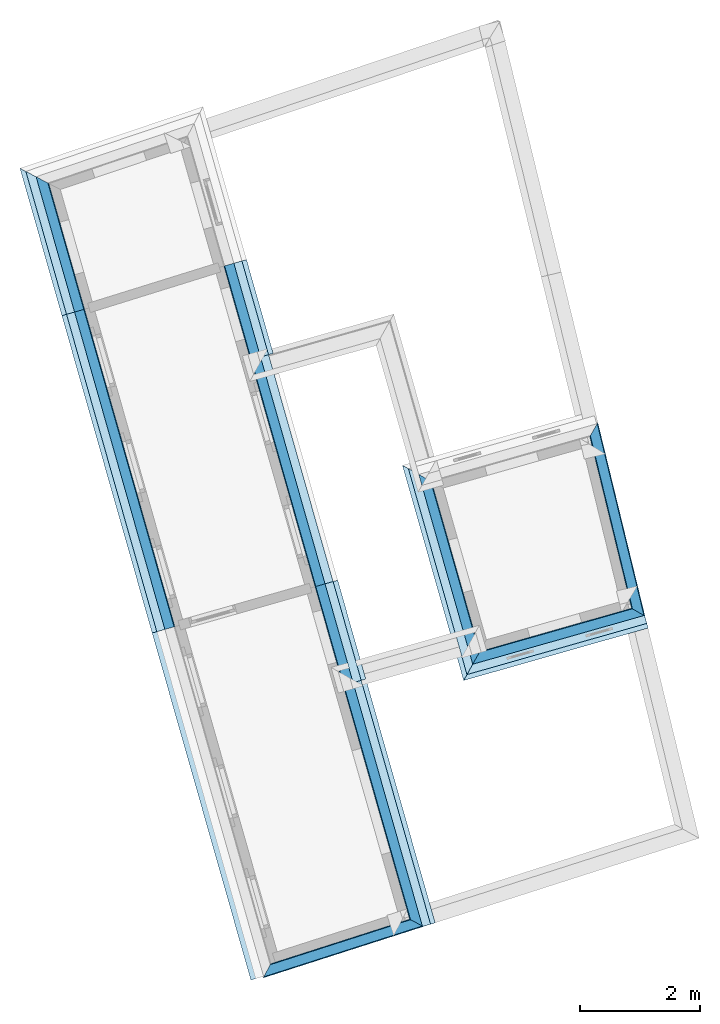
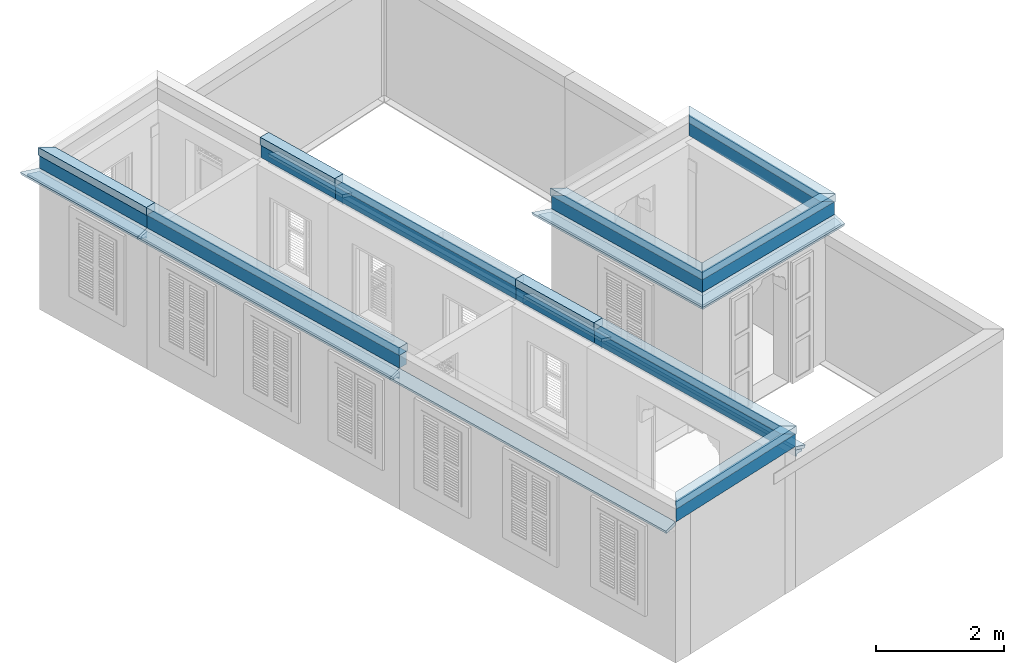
# One storey, part 12 of 13: 36 roofs.
"""IFC4 building model written with IfcOpenShell, lengths in metres."""

from ifc_helpers import new_model, si_unit, frame, origin_with_axes, place, context, subcontext, project, spatial, polyline, outline, extrude, clip, halfspace, material_profile, profile_set, profile_usage, type_object, element, save


model = new_model("IFC4")

# Units and contexts
model_context = context("Model", 3, world=origin_with_axes())
body_context = subcontext(model_context, "Body", "Model", "MODEL_VIEW")
ifc_project = project(units=[si_unit("PLANEANGLEUNIT", "RADIAN"), si_unit("MASSUNIT", "GRAM", prefix="KILO"), si_unit("FORCEUNIT", "NEWTON", prefix="KILO"), si_unit("LENGTHUNIT", "METRE"), si_unit("AREAUNIT", "SQUARE_METRE"), si_unit("VOLUMEUNIT", "CUBIC_METRE")], contexts=[model_context, model_context])

# Site, building, storey
site_placement = place(None, origin_with_axes())
site = spatial("IfcSite", under=ifc_project, at=site_placement, Name="Site plot-3", CompositionType="ELEMENT")
building_placement = place(None, origin_with_axes())
building = spatial("IfcBuilding", under=site, at=building_placement, Name="Building plot-3", CompositionType="ELEMENT")
storey_placement = place(None, frame((0.0, 0.0, 3.3), z_axis=(0.0, 0.0, 1.0), x_axis=(1.0, 0.0, 0.0)))
storey = spatial("IfcBuildingStorey", under=building, at=storey_placement, Name="plot-3 1", CompositionType="ELEMENT", Elevation=3.3)

# Roofs
ifc_material_profile_1 = material_profile(None, outline(polyline([(0.25, 0.0), (0.25, 0.245), (0.09, 0.245), (0.09, 0.0), (0.25, 0.0)])))
ifc_profile_set_1 = profile_set([ifc_material_profile_1])
ifc_profile_usage_1 = profile_usage(ifc_profile_set_1)
roof_type_1 = type_object("IfcRoofType", Name="roofline_0", PredefinedType="FREEFORM", material=ifc_profile_set_1)
roof_1_placement = place(storey_placement, frame((7.71388206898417, 25.0570450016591, 2.7), z_axis=(-0.273606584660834, 0.961841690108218, 0.0), x_axis=(-0.961841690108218, -0.273606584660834, 0.0)))
element("IfcRoof", 1, at=roof_1_placement, inside=storey, type_object=roof_type_1, material=ifc_profile_usage_1, Name="roofline_0", context=body_context, shape_type="Clipping", body=[
    clip(clip(extrude(outline(polyline([(0.25, 0.0), (0.25, 0.245), (0.09, 0.245), (0.09, 0.0), (0.25, 0.0)])), origin_with_axes(), (0.0, 0.0, 1.0), 4.10672390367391), halfspace(frame((0.0, 0.0, 3.10672390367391), z_axis=(0.689925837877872, 0.0, -0.723880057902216), x_axis=(0.0, 1.0, 0.0)), True)), halfspace(frame((0.0, 0.0, 1.0), z_axis=(-2.05963378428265e-15, 0.0, -1.0), x_axis=(0.0, 1.0, 0.0)), False)),
])
ifc_profile_usage_2 = profile_usage(ifc_profile_set_1)
roof_2_placement = place(storey_placement, frame((9.21950237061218, 19.7641593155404, 2.7), z_axis=(-0.27360658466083, 0.961841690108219, 0.0), x_axis=(-0.961841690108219, -0.27360658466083, 0.0)))
element("IfcRoof", 2, at=roof_2_placement, inside=storey, type_object=roof_type_1, material=ifc_profile_usage_2, Name="roofline_0", context=body_context, shape_type="Clipping", body=[
    clip(clip(extrude(outline(polyline([(0.25, 0.0), (0.25, 0.245), (0.09, 0.245), (0.09, 0.0), (0.25, 0.0)])), origin_with_axes(), (0.0, 0.0, 1.0), 7.50286574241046), halfspace(frame((0.0, 0.0, 6.50286574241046), z_axis=(-6.50052588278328e-15, 0.0, -1.0), x_axis=(0.0, 1.0, 0.0)), True)), halfspace(frame((0.0, 0.0, 1.0), z_axis=(6.04901474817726e-16, 0.0, -1.0), x_axis=(0.0, 1.0, 0.0)), False)),
])
ifc_profile_usage_3 = profile_usage(ifc_profile_set_1)
roof_3_placement = place(storey_placement, frame((13.6449707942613, 16.1811149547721, 2.7), z_axis=(-0.952226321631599, -0.305393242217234, 0.0), x_axis=(0.305393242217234, -0.952226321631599, 0.0)))
element("IfcRoof", 3, at=roof_3_placement, inside=storey, type_object=roof_type_1, material=ifc_profile_usage_3, Name="roofline_0", context=body_context, shape_type="Clipping", body=[
    clip(clip(extrude(outline(polyline([(0.25, 0.0), (0.25, 0.245), (0.09, 0.245), (0.09, 0.0), (0.25, 0.0)])), origin_with_axes(), (0.0, 0.0, 1.0), 4.27806309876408), halfspace(frame((0.0, 0.0, 3.27806309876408), z_axis=(0.718750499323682, 0.0, -0.695268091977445), x_axis=(0.0, 1.0, 0.0)), True)), halfspace(frame((0.0, 0.0, 1.0), z_axis=(-0.695268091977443, 0.0, -0.718750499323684), x_axis=(0.0, 1.0, 0.0)), False)),
])
ifc_profile_usage_4 = profile_usage(ifc_profile_set_1)
roof_4_placement = place(storey_placement, frame((11.3309174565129, 20.663113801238, 2.7), z_axis=(0.273606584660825, -0.961841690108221, 0.0), x_axis=(0.961841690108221, 0.273606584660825, 0.0)))
element("IfcRoof", 4, at=roof_4_placement, inside=storey, type_object=roof_type_1, material=ifc_profile_usage_4, Name="roofline_0", context=body_context, shape_type="Clipping", body=[
    clip(clip(extrude(outline(polyline([(0.25, 0.0), (0.25, 0.245), (0.09, 0.245), (0.09, 0.0), (0.25, 0.0)])), origin_with_axes(), (0.0, 0.0, 1.0), 5.97731813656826), halfspace(frame((0.0, 0.0, 4.97731813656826), z_axis=(0.695268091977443, 0.0, -0.718750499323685), x_axis=(0.0, 1.0, 0.0)), True)), halfspace(frame((0.0, 0.0, 1.0), z_axis=(-6.12323399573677e-17, 0.0, -1.0), x_axis=(0.0, 1.0, 0.0)), False)),
])
ifc_profile_usage_5 = profile_usage(ifc_profile_set_1)
roof_5_placement = place(storey_placement, frame((10.8622170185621, 22.3107920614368, 2.7), z_axis=(0.273606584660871, -0.961841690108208, 0.0), x_axis=(0.961841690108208, 0.273606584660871, 0.0)))
element("IfcRoof", 5, at=roof_5_placement, inside=storey, type_object=roof_type_1, material=ifc_profile_usage_5, Name="roofline_0", context=body_context, shape_type="Clipping", body=[
    clip(clip(extrude(outline(polyline([(0.25, 0.0), (0.25, 0.245), (0.09, 0.245), (0.09, 0.0), (0.25, 0.0)])), origin_with_axes(), (0.0, 0.0, 1.0), 3.71304516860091), halfspace(frame((0.0, 0.0, 2.71304516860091), z_axis=(4.70122239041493e-14, 0.0, -1.0), x_axis=(0.0, 1.0, 0.0)), True)), halfspace(frame((0.0, 0.0, 1.0), z_axis=(-9.49410759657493e-16, 0.0, -1.0), x_axis=(0.0, 1.0, 0.0)), False)),
])
ifc_profile_usage_6 = profile_usage(ifc_profile_set_1)
roof_6_placement = place(storey_placement, frame((9.78591277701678, 26.0944520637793, 2.7), z_axis=(0.273606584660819, -0.961841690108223, 0.0), x_axis=(0.961841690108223, 0.273606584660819, 0.0)))
element("IfcRoof", 6, at=roof_6_placement, inside=storey, type_object=roof_type_1, material=ifc_profile_usage_6, Name="roofline_0", context=body_context, shape_type="Clipping", body=[
    clip(clip(extrude(outline(polyline([(0.25, 0.0), (0.25, 0.245), (0.09, 0.245), (0.09, 0.0), (0.25, 0.0)])), origin_with_axes(), (0.0, 0.0, 1.0), 5.93376585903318), halfspace(frame((0.0, 0.0, 4.93376585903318), z_axis=(-5.51282943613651e-14, 0.0, -1.0), x_axis=(0.0, 1.0, 0.0)), True)), halfspace(frame((0.0, 0.0, 1.0), z_axis=(1.60812264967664e-16, 0.0, -1.0), x_axis=(0.0, 1.0, 0.0)), False)),
])
ifc_profile_usage_7 = profile_usage(ifc_profile_set_1)
roof_7_placement = place(storey_placement, frame((9.34125615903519, 27.6576062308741, 2.7), z_axis=(0.273606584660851, -0.961841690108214, 0.0), x_axis=(0.961841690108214, 0.273606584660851, 0.0)))
element("IfcRoof", 7, at=roof_7_placement, inside=storey, type_object=roof_type_1, material=ifc_profile_usage_7, Name="roofline_0", context=body_context, shape_type="Clipping", body=[
    clip(clip(extrude(outline(polyline([(0.25, 0.0), (0.25, 0.245), (0.09, 0.245), (0.09, 0.0), (0.25, 0.0)])), origin_with_axes(), (0.0, 0.0, 1.0), 3.62516782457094), halfspace(frame((0.0, 0.0, 2.62516782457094), z_axis=(3.36895476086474e-14, 0.0, -1.0), x_axis=(0.0, 1.0, 0.0)), True)), halfspace(frame((0.0, 0.0, 1.0), z_axis=(3.82856869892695e-16, 0.0, -1.0), x_axis=(0.0, 1.0, 0.0)), False)),
])
ifc_material_profile_2 = material_profile(None, outline(polyline([(0.265, 0.245), (0.265, 0.395), (0.075, 0.395), (0.075, 0.245), (0.265, 0.245)])))
ifc_profile_set_2 = profile_set([ifc_material_profile_2])
ifc_profile_usage_8 = profile_usage(ifc_profile_set_2)
roof_type_2 = type_object("IfcRoofType", Name="roofline_1", PredefinedType="FREEFORM", material=ifc_profile_set_2)
roof_8_placement = place(storey_placement, frame((7.71388206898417, 25.0570450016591, 2.7), z_axis=(-0.273606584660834, 0.961841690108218, 0.0), x_axis=(-0.961841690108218, -0.273606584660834, 0.0)))
element("IfcRoof", 8, at=roof_8_placement, inside=storey, type_object=roof_type_2, material=ifc_profile_usage_8, Name="roofline_1", context=body_context, shape_type="Clipping", body=[
    clip(clip(extrude(outline(polyline([(0.265, 0.245), (0.265, 0.395), (0.075, 0.395), (0.075, 0.245), (0.265, 0.245)])), origin_with_axes(), (0.0, 0.0, 1.0), 4.10672390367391), halfspace(frame((0.0, 0.0, 3.10672390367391), z_axis=(0.689925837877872, 0.0, -0.723880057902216), x_axis=(0.0, 1.0, 0.0)), True)), halfspace(frame((0.0, 0.0, 1.0), z_axis=(-2.05963378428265e-15, 0.0, -1.0), x_axis=(0.0, 1.0, 0.0)), False)),
])
ifc_profile_usage_9 = profile_usage(ifc_profile_set_2)
roof_9_placement = place(storey_placement, frame((9.21950237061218, 19.7641593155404, 2.7), z_axis=(-0.27360658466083, 0.961841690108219, 0.0), x_axis=(-0.961841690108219, -0.27360658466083, 0.0)))
element("IfcRoof", 9, at=roof_9_placement, inside=storey, type_object=roof_type_2, material=ifc_profile_usage_9, Name="roofline_1", context=body_context, shape_type="Clipping", body=[
    clip(clip(extrude(outline(polyline([(0.265, 0.245), (0.265, 0.395), (0.075, 0.395), (0.075, 0.245), (0.265, 0.245)])), origin_with_axes(), (0.0, 0.0, 1.0), 7.50286574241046), halfspace(frame((0.0, 0.0, 6.50286574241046), z_axis=(-6.50052588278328e-15, 0.0, -1.0), x_axis=(0.0, 1.0, 0.0)), True)), halfspace(frame((0.0, 0.0, 1.0), z_axis=(6.04901474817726e-16, 0.0, -1.0), x_axis=(0.0, 1.0, 0.0)), False)),
])
ifc_profile_usage_10 = profile_usage(ifc_profile_set_2)
roof_10_placement = place(storey_placement, frame((13.6449707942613, 16.1811149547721, 2.7), z_axis=(-0.952226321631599, -0.305393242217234, 0.0), x_axis=(0.305393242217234, -0.952226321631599, 0.0)))
element("IfcRoof", 10, at=roof_10_placement, inside=storey, type_object=roof_type_2, material=ifc_profile_usage_10, Name="roofline_1", context=body_context, shape_type="Clipping", body=[
    clip(clip(extrude(outline(polyline([(0.265, 0.245), (0.265, 0.395), (0.075, 0.395), (0.075, 0.245), (0.265, 0.245)])), origin_with_axes(), (0.0, 0.0, 1.0), 4.27806309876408), halfspace(frame((0.0, 0.0, 3.27806309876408), z_axis=(0.718750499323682, 0.0, -0.695268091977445), x_axis=(0.0, 1.0, 0.0)), True)), halfspace(frame((0.0, 0.0, 1.0), z_axis=(-0.695268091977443, 0.0, -0.718750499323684), x_axis=(0.0, 1.0, 0.0)), False)),
])
ifc_profile_usage_11 = profile_usage(ifc_profile_set_2)
roof_11_placement = place(storey_placement, frame((11.3309174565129, 20.663113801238, 2.7), z_axis=(0.273606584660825, -0.961841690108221, 0.0), x_axis=(0.961841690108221, 0.273606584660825, 0.0)))
element("IfcRoof", 11, at=roof_11_placement, inside=storey, type_object=roof_type_2, material=ifc_profile_usage_11, Name="roofline_1", context=body_context, shape_type="Clipping", body=[
    clip(clip(extrude(outline(polyline([(0.265, 0.245), (0.265, 0.395), (0.075, 0.395), (0.075, 0.245), (0.265, 0.245)])), origin_with_axes(), (0.0, 0.0, 1.0), 5.97731813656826), halfspace(frame((0.0, 0.0, 4.97731813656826), z_axis=(0.695268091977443, 0.0, -0.718750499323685), x_axis=(0.0, 1.0, 0.0)), True)), halfspace(frame((0.0, 0.0, 1.0), z_axis=(-6.12323399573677e-17, 0.0, -1.0), x_axis=(0.0, 1.0, 0.0)), False)),
])
ifc_profile_usage_12 = profile_usage(ifc_profile_set_2)
roof_12_placement = place(storey_placement, frame((10.8622170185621, 22.3107920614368, 2.7), z_axis=(0.273606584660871, -0.961841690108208, 0.0), x_axis=(0.961841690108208, 0.273606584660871, 0.0)))
element("IfcRoof", 12, at=roof_12_placement, inside=storey, type_object=roof_type_2, material=ifc_profile_usage_12, Name="roofline_1", context=body_context, shape_type="Clipping", body=[
    clip(clip(extrude(outline(polyline([(0.265, 0.245), (0.265, 0.395), (0.075, 0.395), (0.075, 0.245), (0.265, 0.245)])), origin_with_axes(), (0.0, 0.0, 1.0), 3.71304516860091), halfspace(frame((0.0, 0.0, 2.71304516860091), z_axis=(4.70122239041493e-14, 0.0, -1.0), x_axis=(0.0, 1.0, 0.0)), True)), halfspace(frame((0.0, 0.0, 1.0), z_axis=(-9.49410759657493e-16, 0.0, -1.0), x_axis=(0.0, 1.0, 0.0)), False)),
])
ifc_profile_usage_13 = profile_usage(ifc_profile_set_2)
roof_13_placement = place(storey_placement, frame((9.78591277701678, 26.0944520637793, 2.7), z_axis=(0.273606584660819, -0.961841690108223, 0.0), x_axis=(0.961841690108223, 0.273606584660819, 0.0)))
element("IfcRoof", 13, at=roof_13_placement, inside=storey, type_object=roof_type_2, material=ifc_profile_usage_13, Name="roofline_1", context=body_context, shape_type="Clipping", body=[
    clip(clip(extrude(outline(polyline([(0.265, 0.245), (0.265, 0.395), (0.075, 0.395), (0.075, 0.245), (0.265, 0.245)])), origin_with_axes(), (0.0, 0.0, 1.0), 5.93376585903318), halfspace(frame((0.0, 0.0, 4.93376585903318), z_axis=(-5.51282943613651e-14, 0.0, -1.0), x_axis=(0.0, 1.0, 0.0)), True)), halfspace(frame((0.0, 0.0, 1.0), z_axis=(1.60812264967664e-16, 0.0, -1.0), x_axis=(0.0, 1.0, 0.0)), False)),
])
ifc_profile_usage_14 = profile_usage(ifc_profile_set_2)
roof_14_placement = place(storey_placement, frame((9.34125615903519, 27.6576062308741, 2.7), z_axis=(0.273606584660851, -0.961841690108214, 0.0), x_axis=(0.961841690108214, 0.273606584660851, 0.0)))
element("IfcRoof", 14, at=roof_14_placement, inside=storey, type_object=roof_type_2, material=ifc_profile_usage_14, Name="roofline_1", context=body_context, shape_type="Clipping", body=[
    clip(clip(extrude(outline(polyline([(0.265, 0.245), (0.265, 0.395), (0.075, 0.395), (0.075, 0.245), (0.265, 0.245)])), origin_with_axes(), (0.0, 0.0, 1.0), 3.62516782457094), halfspace(frame((0.0, 0.0, 2.62516782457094), z_axis=(3.36895476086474e-14, 0.0, -1.0), x_axis=(0.0, 1.0, 0.0)), True)), halfspace(frame((0.0, 0.0, 1.0), z_axis=(3.82856869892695e-16, 0.0, -1.0), x_axis=(0.0, 1.0, 0.0)), False)),
])
ifc_material_profile_3 = material_profile(None, outline(polyline([(0.25, 0.0), (0.25, 0.245), (0.09, 0.245), (0.09, 0.0), (0.25, 0.0)])))
ifc_profile_set_3 = profile_set([ifc_material_profile_3])
ifc_profile_usage_15 = profile_usage(ifc_profile_set_3)
roof_type_3 = type_object("IfcRoofType", Name="roofline_0", PredefinedType="FREEFORM", material=ifc_profile_set_3)
roof_15_placement = place(storey_placement, frame((14.2855605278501, 19.4242506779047, 2.7), z_axis=(-0.273606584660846, 0.961841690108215, 0.0), x_axis=(-0.961841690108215, -0.273606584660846, 0.0)))
element("IfcRoof", 15, at=roof_15_placement, inside=storey, type_object=roof_type_3, material=ifc_profile_usage_15, Name="roofline_0", context=body_context, shape_type="Clipping", body=[
    clip(clip(extrude(outline(polyline([(0.25, 0.0), (0.25, 0.245), (0.09, 0.245), (0.09, 0.0), (0.25, 0.0)])), origin_with_axes(), (0.0, 0.0, 1.0), 4.79101093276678), halfspace(frame((0.0, 0.0, 3.79101093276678), z_axis=(0.707106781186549, 0.0, -0.707106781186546), x_axis=(0.0, 1.0, 0.0)), True)), halfspace(frame((0.0, 0.0, 1.0), z_axis=(-0.707106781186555, 0.0, -0.70710678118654), x_axis=(0.0, 1.0, 0.0)), False)),
])
ifc_profile_usage_16 = profile_usage(ifc_profile_set_3)
roof_16_placement = place(storey_placement, frame((17.3576479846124, 21.337812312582, 2.7), z_axis=(-0.961841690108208, -0.273606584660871, 0.0), x_axis=(0.273606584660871, -0.961841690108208, 0.0)))
element("IfcRoof", 16, at=roof_16_placement, inside=storey, type_object=roof_type_3, material=ifc_profile_usage_16, Name="roofline_0", context=body_context, shape_type="Clipping", body=[
    clip(clip(extrude(outline(polyline([(0.25, 0.0), (0.25, 0.245), (0.09, 0.245), (0.09, 0.0), (0.25, 0.0)])), origin_with_axes(), (0.0, 0.0, 1.0), 4.47842485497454), halfspace(frame((0.0, 0.0, 3.47842485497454), z_axis=(0.707106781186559, 0.0, -0.707106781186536), x_axis=(0.0, 1.0, 0.0)), True)), halfspace(frame((0.0, 0.0, 1.0), z_axis=(-0.693448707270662, 0.0, -0.720505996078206), x_axis=(0.0, 1.0, 0.0)), False)),
])
ifc_profile_usage_17 = profile_usage(ifc_profile_set_3)
roof_17_placement = place(storey_placement, frame((15.498337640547, 24.7495580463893, 2.7), z_axis=(0.236608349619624, -0.97160510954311, 0.0), x_axis=(0.97160510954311, 0.236608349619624, 0.0)))
element("IfcRoof", 17, at=roof_17_placement, inside=storey, type_object=roof_type_3, material=ifc_profile_usage_17, Name="roofline_0", context=body_context, shape_type="Clipping", body=[
    clip(clip(extrude(outline(polyline([(0.25, 0.0), (0.25, 0.245), (0.09, 0.245), (0.09, 0.0), (0.25, 0.0)])), origin_with_axes(), (0.0, 0.0, 1.0), 4.79305572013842), halfspace(frame((0.0, 0.0, 3.79305572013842), z_axis=(0.693448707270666, 0.0, -0.720505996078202), x_axis=(0.0, 1.0, 0.0)), True)), halfspace(frame((0.0, 0.0, 1.0), z_axis=(-0.720505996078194, 0.0, -0.693448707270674), x_axis=(0.0, 1.0, 0.0)), False)),
])
ifc_material_profile_4 = material_profile(None, outline(polyline([(0.265, 0.245), (0.265, 0.395), (0.075, 0.395), (0.075, 0.245), (0.265, 0.245)])))
ifc_profile_set_4 = profile_set([ifc_material_profile_4])
ifc_profile_usage_18 = profile_usage(ifc_profile_set_4)
roof_type_4 = type_object("IfcRoofType", Name="roofline_1", PredefinedType="FREEFORM", material=ifc_profile_set_4)
roof_18_placement = place(storey_placement, frame((14.2855605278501, 19.4242506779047, 2.7), z_axis=(-0.273606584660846, 0.961841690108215, 0.0), x_axis=(-0.961841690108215, -0.273606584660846, 0.0)))
element("IfcRoof", 18, at=roof_18_placement, inside=storey, type_object=roof_type_4, material=ifc_profile_usage_18, Name="roofline_1", context=body_context, shape_type="Clipping", body=[
    clip(clip(extrude(outline(polyline([(0.265, 0.245), (0.265, 0.395), (0.075, 0.395), (0.075, 0.245), (0.265, 0.245)])), origin_with_axes(), (0.0, 0.0, 1.0), 4.79101093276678), halfspace(frame((0.0, 0.0, 3.79101093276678), z_axis=(0.707106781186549, 0.0, -0.707106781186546), x_axis=(0.0, 1.0, 0.0)), True)), halfspace(frame((0.0, 0.0, 1.0), z_axis=(-0.707106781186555, 0.0, -0.70710678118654), x_axis=(0.0, 1.0, 0.0)), False)),
])
ifc_profile_usage_19 = profile_usage(ifc_profile_set_4)
roof_19_placement = place(storey_placement, frame((17.3576479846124, 21.337812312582, 2.7), z_axis=(-0.961841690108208, -0.273606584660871, 0.0), x_axis=(0.273606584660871, -0.961841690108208, 0.0)))
element("IfcRoof", 19, at=roof_19_placement, inside=storey, type_object=roof_type_4, material=ifc_profile_usage_19, Name="roofline_1", context=body_context, shape_type="Clipping", body=[
    clip(clip(extrude(outline(polyline([(0.265, 0.245), (0.265, 0.395), (0.075, 0.395), (0.075, 0.245), (0.265, 0.245)])), origin_with_axes(), (0.0, 0.0, 1.0), 4.47842485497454), halfspace(frame((0.0, 0.0, 3.47842485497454), z_axis=(0.707106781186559, 0.0, -0.707106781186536), x_axis=(0.0, 1.0, 0.0)), True)), halfspace(frame((0.0, 0.0, 1.0), z_axis=(-0.693448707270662, 0.0, -0.720505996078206), x_axis=(0.0, 1.0, 0.0)), False)),
])
ifc_profile_usage_20 = profile_usage(ifc_profile_set_4)
roof_20_placement = place(storey_placement, frame((15.498337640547, 24.7495580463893, 2.7), z_axis=(0.236608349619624, -0.97160510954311, 0.0), x_axis=(0.97160510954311, 0.236608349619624, 0.0)))
element("IfcRoof", 20, at=roof_20_placement, inside=storey, type_object=roof_type_4, material=ifc_profile_usage_20, Name="roofline_1", context=body_context, shape_type="Clipping", body=[
    clip(clip(extrude(outline(polyline([(0.265, 0.245), (0.265, 0.395), (0.075, 0.395), (0.075, 0.245), (0.265, 0.245)])), origin_with_axes(), (0.0, 0.0, 1.0), 4.79305572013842), halfspace(frame((0.0, 0.0, 3.79305572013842), z_axis=(0.693448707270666, 0.0, -0.720505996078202), x_axis=(0.0, 1.0, 0.0)), True)), halfspace(frame((0.0, 0.0, 1.0), z_axis=(-0.720505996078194, 0.0, -0.693448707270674), x_axis=(0.0, 1.0, 0.0)), False)),
])
ifc_material_profile_5 = material_profile(None, outline(polyline([(0.25, -0.19), (0.275, -0.19), (0.275, -0.15), (0.39, -0.15), (0.39, -0.107509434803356), (0.25, -0.0629639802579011), (0.25, -0.19)])))
ifc_profile_set_5 = profile_set([ifc_material_profile_5])
ifc_profile_usage_21 = profile_usage(ifc_profile_set_5)
roof_type_5 = type_object("IfcRoofType", Name="eaves_0", PredefinedType="FREEFORM", material=ifc_profile_set_5)
roof_21_placement = place(storey_placement, frame((14.2855605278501, 19.4242506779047, 2.7), z_axis=(-0.273606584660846, 0.961841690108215, 0.0), x_axis=(-0.961841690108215, -0.273606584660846, 0.0)))
element("IfcRoof", 21, at=roof_21_placement, inside=storey, type_object=roof_type_5, material=ifc_profile_usage_21, Name="eaves_0", context=body_context, shape_type="Clipping", body=[
    clip(clip(extrude(outline(polyline([(0.25, -0.19), (0.275, -0.19), (0.275, -0.15), (0.39, -0.15), (0.39, -0.107509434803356), (0.25, -0.0629639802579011), (0.25, -0.19)])), origin_with_axes(), (0.0, 0.0, 1.0), 4.79101093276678), halfspace(frame((0.0, 0.0, 3.79101093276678), z_axis=(0.707106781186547, 0.0, -0.707106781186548), x_axis=(0.0, 1.0, 0.0)), True)), halfspace(frame((0.0, 0.0, 1.0), z_axis=(-0.707106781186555, 0.0, -0.70710678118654), x_axis=(0.0, 1.0, 0.0)), False)),
])
ifc_profile_usage_22 = profile_usage(ifc_profile_set_5)
roof_22_placement = place(storey_placement, frame((17.5981084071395, 21.4062139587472, 2.7), z_axis=(-0.961841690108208, -0.273606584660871, 0.0), x_axis=(0.273606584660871, -0.961841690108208, 0.0)))
element("IfcRoof", 22, at=roof_22_placement, inside=storey, type_object=roof_type_5, material=ifc_profile_usage_22, Name="eaves_0", context=body_context, shape_type="Clipping", body=[
    clip(clip(extrude(outline(polyline([(0.25, -0.19), (0.275, -0.19), (0.275, -0.15), (0.39, -0.15), (0.39, -0.107509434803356), (0.25, -0.0629639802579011), (0.25, -0.19)])), origin_with_axes(), (0.0, 0.0, 1.0), 4.72842485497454), halfspace(frame((0.0, 0.0, 3.72842485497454), z_axis=(0.707106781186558, 0.0, -0.707106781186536), x_axis=(0.0, 1.0, 0.0)), True)), halfspace(frame((0.0, 0.0, 1.0), z_axis=(-5.0532154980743e-16, 0.0, -1.0), x_axis=(0.0, 1.0, 0.0)), False)),
])
ifc_material_profile_6 = material_profile(None, outline(polyline([(0.25, -0.0629639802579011), (0.451807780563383, -0.127175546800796), (0.47, -0.07), (0.25, 0.0), (0.25, -0.0629639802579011)])))
ifc_profile_set_6 = profile_set([ifc_material_profile_6])
ifc_profile_usage_23 = profile_usage(ifc_profile_set_6)
roof_type_6 = type_object("IfcRoofType", Name="eaves_1", PredefinedType="FREEFORM", material=ifc_profile_set_6)
roof_23_placement = place(storey_placement, frame((14.2855605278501, 19.4242506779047, 2.7), z_axis=(-0.273606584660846, 0.961841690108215, 0.0), x_axis=(-0.961841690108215, -0.273606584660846, 0.0)))
element("IfcRoof", 23, at=roof_23_placement, inside=storey, type_object=roof_type_6, material=ifc_profile_usage_23, Name="eaves_1", context=body_context, shape_type="Clipping", body=[
    clip(clip(extrude(outline(polyline([(0.25, -0.0629639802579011), (0.451807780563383, -0.127175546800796), (0.47, -0.07), (0.25, 0.0), (0.25, -0.0629639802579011)])), origin_with_axes(), (0.0, 0.0, 1.0), 4.79101093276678), halfspace(frame((0.0, 0.0, 3.79101093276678), z_axis=(0.707106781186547, 0.0, -0.707106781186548), x_axis=(0.0, 1.0, 0.0)), True)), halfspace(frame((0.0, 0.0, 1.0), z_axis=(-0.707106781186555, 0.0, -0.70710678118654), x_axis=(0.0, 1.0, 0.0)), False)),
])
ifc_profile_usage_24 = profile_usage(ifc_profile_set_6)
roof_24_placement = place(storey_placement, frame((17.5981084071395, 21.4062139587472, 2.7), z_axis=(-0.961841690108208, -0.273606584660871, 0.0), x_axis=(0.273606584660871, -0.961841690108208, 0.0)))
element("IfcRoof", 24, at=roof_24_placement, inside=storey, type_object=roof_type_6, material=ifc_profile_usage_24, Name="eaves_1", context=body_context, shape_type="Clipping", body=[
    clip(clip(extrude(outline(polyline([(0.25, -0.0629639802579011), (0.451807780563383, -0.127175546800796), (0.47, -0.07), (0.25, 0.0), (0.25, -0.0629639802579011)])), origin_with_axes(), (0.0, 0.0, 1.0), 4.72842485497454), halfspace(frame((0.0, 0.0, 3.72842485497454), z_axis=(0.707106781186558, 0.0, -0.707106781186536), x_axis=(0.0, 1.0, 0.0)), True)), halfspace(frame((0.0, 0.0, 1.0), z_axis=(-5.0532154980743e-16, 0.0, -1.0), x_axis=(0.0, 1.0, 0.0)), False)),
])
ifc_material_profile_7 = material_profile(None, outline(polyline([(0.25, -0.19), (0.275, -0.19), (0.275, -0.15), (0.39, -0.15), (0.39, -0.107509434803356), (0.25, -0.0629639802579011), (0.25, -0.19)])))
ifc_profile_set_7 = profile_set([ifc_material_profile_7])
ifc_profile_usage_25 = profile_usage(ifc_profile_set_7)
roof_type_7 = type_object("IfcRoofType", Name="eaves_0", PredefinedType="FREEFORM", material=ifc_profile_set_7)
roof_25_placement = place(storey_placement, frame((11.3309174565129, 20.663113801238, 2.7), z_axis=(0.273606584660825, -0.961841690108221, 0.0), x_axis=(0.961841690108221, 0.273606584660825, 0.0)))
element("IfcRoof", 25, at=roof_25_placement, inside=storey, type_object=roof_type_7, material=ifc_profile_usage_25, Name="eaves_0", context=body_context, shape_type="Clipping", body=[
    clip(clip(extrude(outline(polyline([(0.25, -0.19), (0.275, -0.19), (0.275, -0.15), (0.39, -0.15), (0.39, -0.107509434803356), (0.25, -0.0629639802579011), (0.25, -0.19)])), origin_with_axes(), (0.0, 0.0, 1.0), 6.22731813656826), halfspace(frame((0.0, 0.0, 5.22731813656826), z_axis=(-6.12323399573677e-17, 0.0, -1.0), x_axis=(0.0, 1.0, 0.0)), True)), halfspace(frame((0.0, 0.0, 1.0), z_axis=(-6.12323399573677e-17, 0.0, -1.0), x_axis=(0.0, 1.0, 0.0)), False)),
])
ifc_profile_usage_26 = profile_usage(ifc_profile_set_7)
roof_26_placement = place(storey_placement, frame((10.8622170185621, 22.3107920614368, 2.7), z_axis=(0.273606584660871, -0.961841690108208, 0.0), x_axis=(0.961841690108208, 0.273606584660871, 0.0)))
element("IfcRoof", 26, at=roof_26_placement, inside=storey, type_object=roof_type_7, material=ifc_profile_usage_26, Name="eaves_0", context=body_context, shape_type="Clipping", body=[
    clip(clip(extrude(outline(polyline([(0.25, -0.19), (0.275, -0.19), (0.275, -0.15), (0.39, -0.15), (0.39, -0.107509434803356), (0.25, -0.0629639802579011), (0.25, -0.19)])), origin_with_axes(), (0.0, 0.0, 1.0), 3.71304516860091), halfspace(frame((0.0, 0.0, 2.71304516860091), z_axis=(4.70122239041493e-14, 0.0, -1.0), x_axis=(0.0, 1.0, 0.0)), True)), halfspace(frame((0.0, 0.0, 1.0), z_axis=(-9.49410759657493e-16, 0.0, -1.0), x_axis=(0.0, 1.0, 0.0)), False)),
])
ifc_profile_usage_27 = profile_usage(ifc_profile_set_7)
roof_27_placement = place(storey_placement, frame((9.78591277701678, 26.0944520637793, 2.7), z_axis=(0.273606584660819, -0.961841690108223, 0.0), x_axis=(0.961841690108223, 0.273606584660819, 0.0)))
element("IfcRoof", 27, at=roof_27_placement, inside=storey, type_object=roof_type_7, material=ifc_profile_usage_27, Name="eaves_0", context=body_context, shape_type="Clipping", body=[
    clip(clip(extrude(outline(polyline([(0.25, -0.19), (0.275, -0.19), (0.275, -0.15), (0.39, -0.15), (0.39, -0.107509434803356), (0.25, -0.0629639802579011), (0.25, -0.19)])), origin_with_axes(), (0.0, 0.0, 1.0), 5.93376585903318), halfspace(frame((0.0, 0.0, 4.93376585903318), z_axis=(-5.51282943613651e-14, 0.0, -1.0), x_axis=(0.0, 1.0, 0.0)), True)), halfspace(frame((0.0, 0.0, 1.0), z_axis=(1.60812264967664e-16, 0.0, -1.0), x_axis=(0.0, 1.0, 0.0)), False)),
])
ifc_profile_usage_28 = profile_usage(ifc_profile_set_7)
roof_28_placement = place(storey_placement, frame((9.34125615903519, 27.6576062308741, 2.7), z_axis=(0.273606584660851, -0.961841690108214, 0.0), x_axis=(0.961841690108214, 0.273606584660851, 0.0)))
element("IfcRoof", 28, at=roof_28_placement, inside=storey, type_object=roof_type_7, material=ifc_profile_usage_28, Name="eaves_0", context=body_context, shape_type="Clipping", body=[
    clip(clip(extrude(outline(polyline([(0.25, -0.19), (0.275, -0.19), (0.275, -0.15), (0.39, -0.15), (0.39, -0.107509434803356), (0.25, -0.0629639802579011), (0.25, -0.19)])), origin_with_axes(), (0.0, 0.0, 1.0), 3.62516782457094), halfspace(frame((0.0, 0.0, 2.62516782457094), z_axis=(3.36895476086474e-14, 0.0, -1.0), x_axis=(0.0, 1.0, 0.0)), True)), halfspace(frame((0.0, 0.0, 1.0), z_axis=(3.82856869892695e-16, 0.0, -1.0), x_axis=(0.0, 1.0, 0.0)), False)),
])
ifc_profile_usage_29 = profile_usage(ifc_profile_set_7)
roof_29_placement = place(storey_placement, frame((7.71388206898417, 25.0570450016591, 2.7), z_axis=(-0.273606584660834, 0.961841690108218, 0.0), x_axis=(-0.961841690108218, -0.273606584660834, 0.0)))
element("IfcRoof", 29, at=roof_29_placement, inside=storey, type_object=roof_type_7, material=ifc_profile_usage_29, Name="eaves_0", context=body_context, shape_type="Clipping", body=[
    clip(clip(extrude(outline(polyline([(0.25, -0.19), (0.275, -0.19), (0.275, -0.15), (0.39, -0.15), (0.39, -0.107509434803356), (0.25, -0.0629639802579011), (0.25, -0.19)])), origin_with_axes(), (0.0, 0.0, 1.0), 4.10672390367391), halfspace(frame((0.0, 0.0, 3.10672390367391), z_axis=(0.689925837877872, 0.0, -0.723880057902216), x_axis=(0.0, 1.0, 0.0)), True)), halfspace(frame((0.0, 0.0, 1.0), z_axis=(-2.05963378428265e-15, 0.0, -1.0), x_axis=(0.0, 1.0, 0.0)), False)),
])
ifc_profile_usage_30 = profile_usage(ifc_profile_set_7)
roof_30_placement = place(storey_placement, frame((9.21950237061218, 19.7641593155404, 2.7), z_axis=(-0.27360658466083, 0.961841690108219, 0.0), x_axis=(-0.961841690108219, -0.27360658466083, 0.0)))
element("IfcRoof", 30, at=roof_30_placement, inside=storey, type_object=roof_type_7, material=ifc_profile_usage_30, Name="eaves_0", context=body_context, shape_type="Clipping", body=[
    clip(clip(extrude(outline(polyline([(0.25, -0.19), (0.275, -0.19), (0.275, -0.15), (0.39, -0.15), (0.39, -0.107509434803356), (0.25, -0.0629639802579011), (0.25, -0.19)])), origin_with_axes(), (0.0, 0.0, 1.0), 7.50286574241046), halfspace(frame((0.0, 0.0, 6.50286574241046), z_axis=(-6.50052588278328e-15, 0.0, -1.0), x_axis=(0.0, 1.0, 0.0)), True)), halfspace(frame((0.0, 0.0, 1.0), z_axis=(6.04901474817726e-16, 0.0, -1.0), x_axis=(0.0, 1.0, 0.0)), False)),
])
ifc_material_profile_8 = material_profile(None, outline(polyline([(0.25, -0.0629639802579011), (0.451807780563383, -0.127175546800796), (0.47, -0.07), (0.25, 0.0), (0.25, -0.0629639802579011)])))
ifc_profile_set_8 = profile_set([ifc_material_profile_8])
ifc_profile_usage_31 = profile_usage(ifc_profile_set_8)
roof_type_8 = type_object("IfcRoofType", Name="eaves_1", PredefinedType="FREEFORM", material=ifc_profile_set_8)
roof_31_placement = place(storey_placement, frame((11.3309174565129, 20.663113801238, 2.7), z_axis=(0.273606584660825, -0.961841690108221, 0.0), x_axis=(0.961841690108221, 0.273606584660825, 0.0)))
element("IfcRoof", 31, at=roof_31_placement, inside=storey, type_object=roof_type_8, material=ifc_profile_usage_31, Name="eaves_1", context=body_context, shape_type="Clipping", body=[
    clip(clip(extrude(outline(polyline([(0.25, -0.0629639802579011), (0.451807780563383, -0.127175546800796), (0.47, -0.07), (0.25, 0.0), (0.25, -0.0629639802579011)])), origin_with_axes(), (0.0, 0.0, 1.0), 6.22731813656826), halfspace(frame((0.0, 0.0, 5.22731813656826), z_axis=(-6.12323399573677e-17, 0.0, -1.0), x_axis=(0.0, 1.0, 0.0)), True)), halfspace(frame((0.0, 0.0, 1.0), z_axis=(-6.12323399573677e-17, 0.0, -1.0), x_axis=(0.0, 1.0, 0.0)), False)),
])
ifc_profile_usage_32 = profile_usage(ifc_profile_set_8)
roof_32_placement = place(storey_placement, frame((10.8622170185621, 22.3107920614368, 2.7), z_axis=(0.273606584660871, -0.961841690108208, 0.0), x_axis=(0.961841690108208, 0.273606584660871, 0.0)))
element("IfcRoof", 32, at=roof_32_placement, inside=storey, type_object=roof_type_8, material=ifc_profile_usage_32, Name="eaves_1", context=body_context, shape_type="Clipping", body=[
    clip(clip(extrude(outline(polyline([(0.25, -0.0629639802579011), (0.451807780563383, -0.127175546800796), (0.47, -0.07), (0.25, 0.0), (0.25, -0.0629639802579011)])), origin_with_axes(), (0.0, 0.0, 1.0), 3.71304516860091), halfspace(frame((0.0, 0.0, 2.71304516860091), z_axis=(4.70122239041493e-14, 0.0, -1.0), x_axis=(0.0, 1.0, 0.0)), True)), halfspace(frame((0.0, 0.0, 1.0), z_axis=(-9.49410759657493e-16, 0.0, -1.0), x_axis=(0.0, 1.0, 0.0)), False)),
])
ifc_profile_usage_33 = profile_usage(ifc_profile_set_8)
roof_33_placement = place(storey_placement, frame((9.34125615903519, 27.6576062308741, 2.7), z_axis=(0.273606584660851, -0.961841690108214, 0.0), x_axis=(0.961841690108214, 0.273606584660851, 0.0)))
element("IfcRoof", 33, at=roof_33_placement, inside=storey, type_object=roof_type_8, material=ifc_profile_usage_33, Name="eaves_1", context=body_context, shape_type="Clipping", body=[
    clip(clip(extrude(outline(polyline([(0.25, -0.0629639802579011), (0.451807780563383, -0.127175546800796), (0.47, -0.07), (0.25, 0.0), (0.25, -0.0629639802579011)])), origin_with_axes(), (0.0, 0.0, 1.0), 3.62516782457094), halfspace(frame((0.0, 0.0, 2.62516782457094), z_axis=(3.36895476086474e-14, 0.0, -1.0), x_axis=(0.0, 1.0, 0.0)), True)), halfspace(frame((0.0, 0.0, 1.0), z_axis=(3.82856869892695e-16, 0.0, -1.0), x_axis=(0.0, 1.0, 0.0)), False)),
])
ifc_profile_usage_34 = profile_usage(ifc_profile_set_8)
roof_34_placement = place(storey_placement, frame((7.71388206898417, 25.0570450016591, 2.7), z_axis=(-0.273606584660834, 0.961841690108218, 0.0), x_axis=(-0.961841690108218, -0.273606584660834, 0.0)))
element("IfcRoof", 34, at=roof_34_placement, inside=storey, type_object=roof_type_8, material=ifc_profile_usage_34, Name="eaves_1", context=body_context, shape_type="Clipping", body=[
    clip(clip(extrude(outline(polyline([(0.25, -0.0629639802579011), (0.451807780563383, -0.127175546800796), (0.47, -0.07), (0.25, 0.0), (0.25, -0.0629639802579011)])), origin_with_axes(), (0.0, 0.0, 1.0), 4.10672390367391), halfspace(frame((0.0, 0.0, 3.10672390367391), z_axis=(0.689925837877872, 0.0, -0.723880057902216), x_axis=(0.0, 1.0, 0.0)), True)), halfspace(frame((0.0, 0.0, 1.0), z_axis=(-2.05963378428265e-15, 0.0, -1.0), x_axis=(0.0, 1.0, 0.0)), False)),
])
ifc_profile_usage_35 = profile_usage(ifc_profile_set_8)
roof_35_placement = place(storey_placement, frame((9.21950237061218, 19.7641593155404, 2.7), z_axis=(-0.27360658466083, 0.961841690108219, 0.0), x_axis=(-0.961841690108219, -0.27360658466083, 0.0)))
element("IfcRoof", 35, at=roof_35_placement, inside=storey, type_object=roof_type_8, material=ifc_profile_usage_35, Name="eaves_1", context=body_context, shape_type="Clipping", body=[
    clip(clip(extrude(outline(polyline([(0.25, -0.0629639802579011), (0.451807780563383, -0.127175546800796), (0.47, -0.07), (0.25, 0.0), (0.25, -0.0629639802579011)])), origin_with_axes(), (0.0, 0.0, 1.0), 7.50286574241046), halfspace(frame((0.0, 0.0, 6.50286574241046), z_axis=(-6.50052588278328e-15, 0.0, -1.0), x_axis=(0.0, 1.0, 0.0)), True)), halfspace(frame((0.0, 0.0, 1.0), z_axis=(6.04901474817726e-16, 0.0, -1.0), x_axis=(0.0, 1.0, 0.0)), False)),
])
ifc_profile_usage_36 = profile_usage(ifc_profile_set_8)
roof_36_placement = place(storey_placement, frame((10.8655210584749, 13.9777145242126, 2.7), z_axis=(-0.273606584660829, 0.96184169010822, 0.0), x_axis=(-0.96184169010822, -0.273606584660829, 0.0)))
element("IfcRoof", 36, at=roof_36_placement, inside=storey, type_object=roof_type_8, material=ifc_profile_usage_36, Name="eaves_1", context=body_context, shape_type="Clipping", body=[
    clip(clip(extrude(outline(polyline([(0.25, -0.0629639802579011), (0.451807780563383, -0.127175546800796), (0.47, -0.07), (0.25, 0.0), (0.25, -0.0629639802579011)])), origin_with_axes(), (0.0, 0.0, 1.0), 8.01600538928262), halfspace(frame((0.0, 0.0, 7.01600538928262), z_axis=(-1.17145536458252e-15, 0.0, -1.0), x_axis=(0.0, 1.0, 0.0)), True)), halfspace(frame((0.0, 0.0, 1.0), z_axis=(-1.17145536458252e-15, 0.0, -1.0), x_axis=(0.0, 1.0, 0.0)), False)),
])

save(model, "model.ifc")
